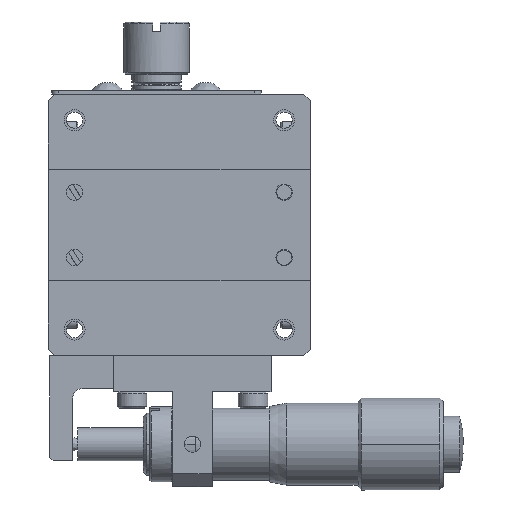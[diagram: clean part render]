
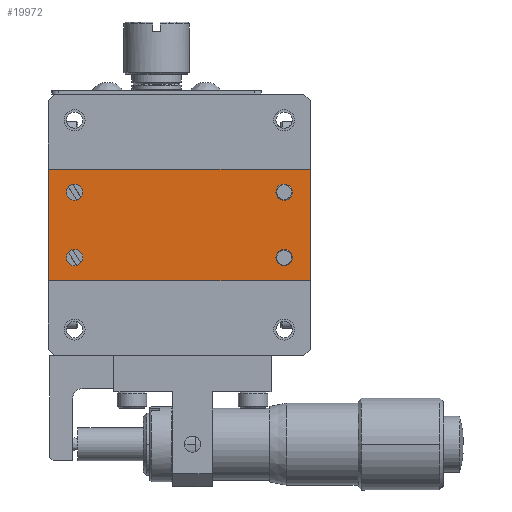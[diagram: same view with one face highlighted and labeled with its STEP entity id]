
A CAD part, front view. The second image highlights one B-rep face of the part: STEP entity #19972.
In plain terms, the highlighted planar face has unit normal (0, -1, 0).
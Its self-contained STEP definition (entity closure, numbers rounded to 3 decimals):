
#392 = CARTESIAN_POINT ( 'NONE',  ( -12.769, 16.443, 5. ) ) ;
#587 = DIRECTION ( 'NONE',  ( 1., 0., 0. ) ) ;
#818 = VERTEX_POINT ( 'NONE', #14302 ) ;
#1063 = CARTESIAN_POINT ( 'NONE',  ( -44.769, 16.443, -3.75 ) ) ;
#1198 = DIRECTION ( 'NONE',  ( 0., 0., 1. ) ) ;
#1282 = VERTEX_POINT ( 'NONE', #22764 ) ;
#1369 = EDGE_CURVE ( 'NONE', #26025, #12076, #7624, .T. ) ;
#1582 = VERTEX_POINT ( 'NONE', #10518 ) ;
#2653 = EDGE_CURVE ( 'NONE', #1282, #29374, #22721, .T. ) ;
#2889 = CIRCLE ( 'NONE', #12734, 1.25 ) ;
#3486 = ORIENTED_EDGE ( 'NONE', *, *, #19100, .F. ) ;
#3519 = ORIENTED_EDGE ( 'NONE', *, *, #7084, .T. ) ;
#3965 = CARTESIAN_POINT ( 'NONE',  ( -44.769, 16.443, 5. ) ) ;
#5366 = DIRECTION ( 'NONE',  ( 1., 0., 0. ) ) ;
#5475 = EDGE_CURVE ( 'NONE', #29374, #1282, #24385, .T. ) ;
#6220 = VERTEX_POINT ( 'NONE', #17754 ) ;
#6356 = DIRECTION ( 'NONE',  ( 0., 0., 1. ) ) ;
#6587 = VECTOR ( 'NONE', #6883, 1000. ) ;
#6608 = DIRECTION ( 'NONE',  ( 0., 0., 1. ) ) ;
#6631 = ORIENTED_EDGE ( 'NONE', *, *, #26179, .F. ) ;
#6883 = DIRECTION ( 'NONE',  ( 0., 0., 1. ) ) ;
#7067 = CARTESIAN_POINT ( 'NONE',  ( -44.769, 16.443, 5. ) ) ;
#7084 = EDGE_CURVE ( 'NONE', #1582, #26717, #7887, .T. ) ;
#7317 = DIRECTION ( 'NONE',  ( 0., 0., -1. ) ) ;
#7340 = EDGE_CURVE ( 'NONE', #6220, #20692, #16057, .T. ) ;
#7589 = CARTESIAN_POINT ( 'NONE',  ( -28.769, 16.443, -8.5 ) ) ;
#7624 = CIRCLE ( 'NONE', #12117, 1.25 ) ;
#7757 = EDGE_CURVE ( 'NONE', #26717, #12014, #21960, .T. ) ;
#7887 = LINE ( 'NONE', #23514, #8240 ) ;
#8221 = DIRECTION ( 'NONE',  ( 0., -1., 0. ) ) ;
#8240 = VECTOR ( 'NONE', #7317, 1000. ) ;
#8689 = EDGE_LOOP ( 'NONE', ( #30204, #15276, #3486, #3519 ) ) ;
#8729 = DIRECTION ( 'NONE',  ( 0., -1., 0. ) ) ;
#9236 = AXIS2_PLACEMENT_3D ( 'NONE', #13691, #18312, #27696 ) ;
#9627 = EDGE_CURVE ( 'NONE', #20692, #6220, #22168, .T. ) ;
#10091 = AXIS2_PLACEMENT_3D ( 'NONE', #3965, #8729, #30051 ) ;
#10115 = ORIENTED_EDGE ( 'NONE', *, *, #7340, .F. ) ;
#10388 = EDGE_LOOP ( 'NONE', ( #25750, #29866 ) ) ;
#10511 = FACE_BOUND ( 'NONE', #10388, .T. ) ;
#10512 = AXIS2_PLACEMENT_3D ( 'NONE', #7067, #14234, #21683 ) ;
#10518 = CARTESIAN_POINT ( 'NONE',  ( -48.769, 16.443, 8.5 ) ) ;
#10698 = ORIENTED_EDGE ( 'NONE', *, *, #2653, .F. ) ;
#10895 = FACE_OUTER_BOUND ( 'NONE', #8689, .T. ) ;
#11171 = DIRECTION ( 'NONE',  ( 0., 0., 1. ) ) ;
#11309 = ORIENTED_EDGE ( 'NONE', *, *, #1369, .F. ) ;
#12014 = VERTEX_POINT ( 'NONE', #29416 ) ;
#12076 = VERTEX_POINT ( 'NONE', #25298 ) ;
#12117 = AXIS2_PLACEMENT_3D ( 'NONE', #392, #21631, #12198 ) ;
#12146 = EDGE_CURVE ( 'NONE', #20425, #818, #22177, .T. ) ;
#12198 = DIRECTION ( 'NONE',  ( 0., 0., 1. ) ) ;
#12261 = DIRECTION ( 'NONE',  ( 0., 0., 1. ) ) ;
#12269 = EDGE_CURVE ( 'NONE', #12014, #20234, #20313, .T. ) ;
#12338 = AXIS2_PLACEMENT_3D ( 'NONE', #20603, #25445, #11171 ) ;
#12734 = AXIS2_PLACEMENT_3D ( 'NONE', #21488, #16736, #12261 ) ;
#12966 = CARTESIAN_POINT ( 'NONE',  ( -12.769, 16.443, -3.75 ) ) ;
#13691 = CARTESIAN_POINT ( 'NONE',  ( -44.769, 16.443, -5. ) ) ;
#14234 = DIRECTION ( 'NONE',  ( 0., -1., 0. ) ) ;
#14302 = CARTESIAN_POINT ( 'NONE',  ( -44.769, 16.443, 3.75 ) ) ;
#14866 = CIRCLE ( 'NONE', #10512, 1.25 ) ;
#15053 = CARTESIAN_POINT ( 'NONE',  ( -48.769, 16.443, -8.5 ) ) ;
#15276 = ORIENTED_EDGE ( 'NONE', *, *, #12269, .T. ) ;
#15695 = ORIENTED_EDGE ( 'NONE', *, *, #9627, .F. ) ;
#16057 = CIRCLE ( 'NONE', #26891, 1.25 ) ;
#16689 = PLANE ( 'NONE',  #25659 ) ;
#16736 = DIRECTION ( 'NONE',  ( 0., -1., 0. ) ) ;
#17754 = CARTESIAN_POINT ( 'NONE',  ( -44.769, 16.443, -6.25 ) ) ;
#17788 = CARTESIAN_POINT ( 'NONE',  ( -44.769, 16.443, -5. ) ) ;
#18312 = DIRECTION ( 'NONE',  ( 0., -1., 0. ) ) ;
#19100 = EDGE_CURVE ( 'NONE', #1582, #20234, #27222, .T. ) ;
#19629 = ORIENTED_EDGE ( 'NONE', *, *, #5475, .F. ) ;
#19972 = ADVANCED_FACE ( 'NONE', ( #10511, #22034, #21646, #23520, #10895 ), #16689, .F. ) ;
#20234 = VERTEX_POINT ( 'NONE', #22449 ) ;
#20313 = LINE ( 'NONE', #23577, #6587 ) ;
#20425 = VERTEX_POINT ( 'NONE', #21096 ) ;
#20603 = CARTESIAN_POINT ( 'NONE',  ( -12.769, 16.443, -5. ) ) ;
#20692 = VERTEX_POINT ( 'NONE', #1063 ) ;
#20812 = DIRECTION ( 'NONE',  ( 0., 1., 0. ) ) ;
#21096 = CARTESIAN_POINT ( 'NONE',  ( -44.769, 16.443, 6.25 ) ) ;
#21488 = CARTESIAN_POINT ( 'NONE',  ( -12.769, 16.443, 5. ) ) ;
#21631 = DIRECTION ( 'NONE',  ( 0., -1., 0. ) ) ;
#21646 = FACE_BOUND ( 'NONE', #27589, .T. ) ;
#21683 = DIRECTION ( 'NONE',  ( 0., 0., 1. ) ) ;
#21960 = LINE ( 'NONE', #7589, #27446 ) ;
#22034 = FACE_BOUND ( 'NONE', #24877, .T. ) ;
#22168 = CIRCLE ( 'NONE', #9236, 1.25 ) ;
#22177 = CIRCLE ( 'NONE', #10091, 1.25 ) ;
#22449 = CARTESIAN_POINT ( 'NONE',  ( -8.769, 16.443, 8.5 ) ) ;
#22721 = CIRCLE ( 'NONE', #12338, 1.25 ) ;
#22764 = CARTESIAN_POINT ( 'NONE',  ( -12.769, 16.443, -6.25 ) ) ;
#23057 = CARTESIAN_POINT ( 'NONE',  ( -12.769, 16.443, -5. ) ) ;
#23514 = CARTESIAN_POINT ( 'NONE',  ( -48.769, 16.443, 0. ) ) ;
#23520 = FACE_BOUND ( 'NONE', #29198, .T. ) ;
#23577 = CARTESIAN_POINT ( 'NONE',  ( -8.769, 16.443, 0. ) ) ;
#23924 = CARTESIAN_POINT ( 'NONE',  ( -48.769, 16.443, -8.5 ) ) ;
#24317 = CARTESIAN_POINT ( 'NONE',  ( -28.769, 16.443, 8.5 ) ) ;
#24385 = CIRCLE ( 'NONE', #27253, 1.25 ) ;
#24877 = EDGE_LOOP ( 'NONE', ( #15695, #10115 ) ) ;
#25082 = CARTESIAN_POINT ( 'NONE',  ( -12.769, 16.443, 6.25 ) ) ;
#25224 = EDGE_CURVE ( 'NONE', #818, #20425, #14866, .T. ) ;
#25298 = CARTESIAN_POINT ( 'NONE',  ( -12.769, 16.443, 3.75 ) ) ;
#25445 = DIRECTION ( 'NONE',  ( 0., -1., 0. ) ) ;
#25659 = AXIS2_PLACEMENT_3D ( 'NONE', #23924, #20812, #6608 ) ;
#25750 = ORIENTED_EDGE ( 'NONE', *, *, #12146, .F. ) ;
#26025 = VERTEX_POINT ( 'NONE', #25082 ) ;
#26179 = EDGE_CURVE ( 'NONE', #12076, #26025, #2889, .T. ) ;
#26717 = VERTEX_POINT ( 'NONE', #15053 ) ;
#26847 = VECTOR ( 'NONE', #5366, 1000. ) ;
#26891 = AXIS2_PLACEMENT_3D ( 'NONE', #17788, #8221, #1198 ) ;
#27222 = LINE ( 'NONE', #24317, #26847 ) ;
#27253 = AXIS2_PLACEMENT_3D ( 'NONE', #23057, #29520, #6356 ) ;
#27446 = VECTOR ( 'NONE', #587, 1000. ) ;
#27589 = EDGE_LOOP ( 'NONE', ( #19629, #10698 ) ) ;
#27696 = DIRECTION ( 'NONE',  ( 0., 0., 1. ) ) ;
#29198 = EDGE_LOOP ( 'NONE', ( #11309, #6631 ) ) ;
#29374 = VERTEX_POINT ( 'NONE', #12966 ) ;
#29416 = CARTESIAN_POINT ( 'NONE',  ( -8.769, 16.443, -8.5 ) ) ;
#29520 = DIRECTION ( 'NONE',  ( 0., -1., 0. ) ) ;
#29866 = ORIENTED_EDGE ( 'NONE', *, *, #25224, .F. ) ;
#30051 = DIRECTION ( 'NONE',  ( 0., 0., 1. ) ) ;
#30204 = ORIENTED_EDGE ( 'NONE', *, *, #7757, .T. ) ;
